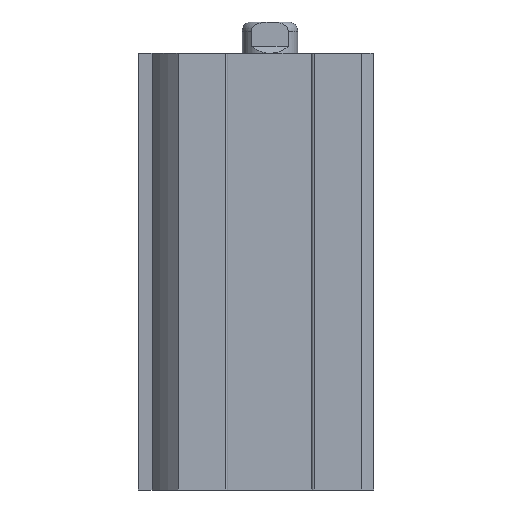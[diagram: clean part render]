
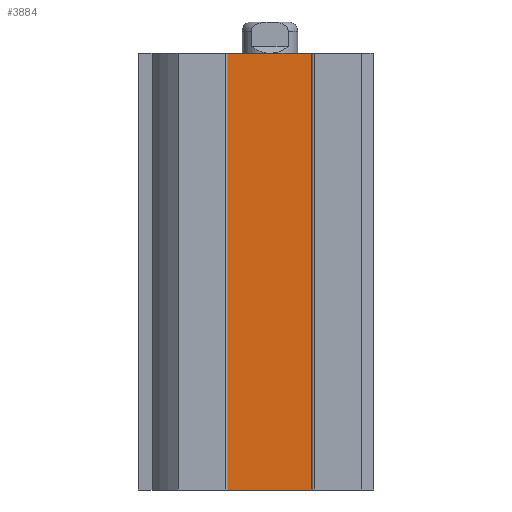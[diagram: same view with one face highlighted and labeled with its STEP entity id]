
A CAD part, left-side view. The second image highlights one B-rep face of the part: STEP entity #3884.
In plain terms, the highlighted planar face has unit normal (-1, 0, 0).
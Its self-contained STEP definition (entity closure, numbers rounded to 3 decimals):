
#118=PLANE('',#4129);
#209=LINE('',#5598,#375);
#210=LINE('',#5600,#376);
#211=LINE('',#5602,#377);
#212=LINE('',#5604,#378);
#375=VECTOR('',#4608,1000.);
#376=VECTOR('',#4611,1000.);
#377=VECTOR('',#4612,1000.);
#378=VECTOR('',#4613,1000.);
#606=ORIENTED_EDGE('',*,*,#1350,.T.);
#607=ORIENTED_EDGE('',*,*,#1349,.F.);
#608=ORIENTED_EDGE('',*,*,#1351,.T.);
#609=ORIENTED_EDGE('',*,*,#1352,.T.);
#1349=EDGE_CURVE('',#1726,#1725,#209,.T.);
#1350=EDGE_CURVE('',#1727,#1725,#210,.T.);
#1351=EDGE_CURVE('',#1726,#1728,#211,.T.);
#1352=EDGE_CURVE('',#1728,#1727,#212,.T.);
#1725=VERTEX_POINT('',#5595);
#1726=VERTEX_POINT('',#5597);
#1727=VERTEX_POINT('',#5601);
#1728=VERTEX_POINT('',#5603);
#2209=EDGE_LOOP('',(#606,#607,#608,#609));
#2494=FACE_BOUND('',#2209,.T.);
#3884=ADVANCED_FACE('',(#2494),#118,.T.);
#4129=AXIS2_PLACEMENT_3D('',#5599,#4609,#4610);
#4608=DIRECTION('',(0.,0.,1.));
#4609=DIRECTION('',(-1.,0.,0.));
#4610=DIRECTION('',(0.,0.,1.));
#4611=DIRECTION('',(0.,1.,0.));
#4612=DIRECTION('',(0.,-1.,0.));
#4613=DIRECTION('',(0.,0.,1.));
#5595=CARTESIAN_POINT('',(-10.,6.124,63.));
#5597=CARTESIAN_POINT('',(-10.,6.124,0.));
#5598=CARTESIAN_POINT('',(-10.,6.124,0.));
#5599=CARTESIAN_POINT('',(-10.,-6.124,0.));
#5600=CARTESIAN_POINT('',(-10.,-6.124,63.));
#5601=CARTESIAN_POINT('',(-10.,-6.124,63.));
#5602=CARTESIAN_POINT('',(-10.,6.124,0.));
#5603=CARTESIAN_POINT('',(-10.,-6.124,0.));
#5604=CARTESIAN_POINT('',(-10.,-6.124,0.));
